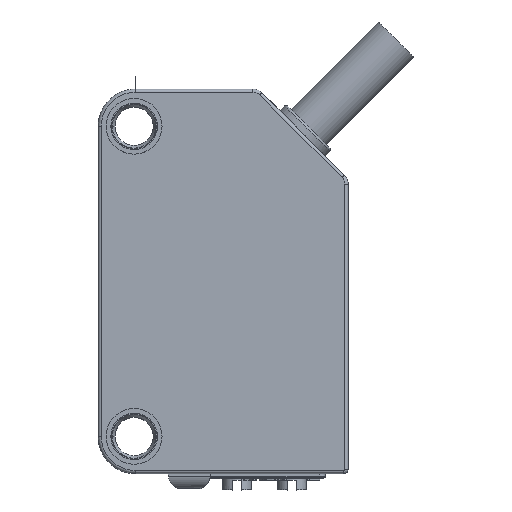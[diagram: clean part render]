
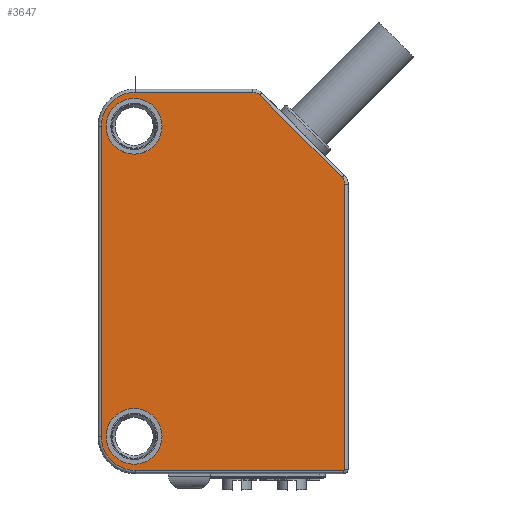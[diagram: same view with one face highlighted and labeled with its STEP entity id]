
A CAD part, top view. The second image highlights one B-rep face of the part: STEP entity #3647.
In plain terms, the highlighted planar face has unit normal (0, 0, 1).
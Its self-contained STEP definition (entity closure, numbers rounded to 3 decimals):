
#670=CARTESIAN_POINT('',(9.725,-20.125,0.25));
#671=DIRECTION('',(0.,0.,1.));
#672=DIRECTION('',(0.,-1.,0.));
#673=AXIS2_PLACEMENT_3D('',#670,#671,#672);
#675=CARTESIAN_POINT('',(-7.075,-17.475,
0.25));
#676=DIRECTION('',(0.,0.,1.));
#677=DIRECTION('',(-1.,0.,0.));
#678=AXIS2_PLACEMENT_3D('',#675,#676,#677);
#680=CARTESIAN_POINT('',(-7.075,7.525,0.25));
#681=DIRECTION('',(0.,0.,1.));
#682=DIRECTION('',(0.,1.,0.));
#683=AXIS2_PLACEMENT_3D('',#680,#681,#682);
#685=CARTESIAN_POINT('',(2.411,9.525,0.25));
#686=DIRECTION('',(0.,0.,1.));
#687=DIRECTION('',(0.707,0.707,0.));
#688=AXIS2_PLACEMENT_3D('',#685,#686,#687);
#690=DIRECTION('',(-0.707,0.707,0.));
#691=VECTOR('',#690,9.425);
#692=CARTESIAN_POINT('',(9.605,3.391,0.25));
#693=LINE('',#692,#691);
#694=CARTESIAN_POINT('',(9.075,2.861,0.25));
#695=DIRECTION('',(0.,0.,1.));
#696=DIRECTION('',(1.,0.,0.));
#697=AXIS2_PLACEMENT_3D('',#694,#695,#696);
#699=CARTESIAN_POINT('',(-7.175,-17.475,
0.25));
#700=DIRECTION('',(0.,0.,-1.));
#701=DIRECTION('',(0.,1.,0.));
#702=AXIS2_PLACEMENT_3D('',#699,#700,#701);
#704=CARTESIAN_POINT('',(-7.175,-17.475,
0.25));
#705=DIRECTION('',(0.,0.,-1.));
#706=DIRECTION('',(0.,-1.,0.));
#707=AXIS2_PLACEMENT_3D('',#704,#705,#706);
#709=CARTESIAN_POINT('',(-7.175,7.525,0.25));
#710=DIRECTION('',(0.,0.,-1.));
#711=DIRECTION('',(0.,1.,0.));
#712=AXIS2_PLACEMENT_3D('',#709,#710,#711);
#714=CARTESIAN_POINT('',(-7.175,7.525,0.25));
#715=DIRECTION('',(0.,0.,-1.));
#716=DIRECTION('',(0.,-1.,0.));
#717=AXIS2_PLACEMENT_3D('',#714,#715,#716);
#719=DIRECTION('',(0.,-1.,0.));
#720=VECTOR('',#719,22.986);
#721=CARTESIAN_POINT('',(9.825,2.861,0.25));
#722=LINE('',#721,#720);
#742=DIRECTION('',(-1.,0.,0.));
#743=VECTOR('',#742,16.8);
#744=CARTESIAN_POINT('',(9.725,-20.225,0.25));
#745=LINE('',#744,#743);
#765=DIRECTION('',(0.,1.,0.));
#766=VECTOR('',#765,25.);
#767=CARTESIAN_POINT('',(-9.825,-17.475,
0.25));
#768=LINE('',#767,#766);
#788=DIRECTION('',(1.,0.,0.));
#789=VECTOR('',#788,9.486);
#790=CARTESIAN_POINT('',(-7.075,10.275,0.25));
#791=LINE('',#790,#789);
#2739=CARTESIAN_POINT('',(-7.075,-20.225,
0.25));
#2740=VERTEX_POINT('',#2739);
#2741=CARTESIAN_POINT('',(-9.825,-17.475,
0.25));
#2742=VERTEX_POINT('',#2741);
#2743=CARTESIAN_POINT('',(9.725,-20.225,
0.25));
#2744=VERTEX_POINT('',#2743);
#2745=CARTESIAN_POINT('',(-9.825,7.525,
0.25));
#2746=VERTEX_POINT('',#2745);
#2747=CARTESIAN_POINT('',(9.825,-20.125,
0.25));
#2748=VERTEX_POINT('',#2747);
#2749=CARTESIAN_POINT('',(9.825,2.861,0.25));
#2750=VERTEX_POINT('',#2749);
#2807=CARTESIAN_POINT('',(2.941,10.055,0.25));
#2808=VERTEX_POINT('',#2807);
#2809=CARTESIAN_POINT('',(-7.075,10.275,
0.25));
#2810=VERTEX_POINT('',#2809);
#2811=CARTESIAN_POINT('',(2.411,10.275,0.25));
#2812=VERTEX_POINT('',#2811);
#2813=CARTESIAN_POINT('',(-7.175,-19.725,
0.25));
#2815=VERTEX_POINT('',#2813);
#2818=CARTESIAN_POINT('',(-7.175,-15.225,
0.25));
#2820=VERTEX_POINT('',#2818);
#2821=CARTESIAN_POINT('',(-7.175,9.775,
0.25));
#2822=VERTEX_POINT('',#2821);
#2823=CARTESIAN_POINT('',(-7.175,5.275,
0.25));
#2824=VERTEX_POINT('',#2823);
#2825=CARTESIAN_POINT('',(9.605,3.391,0.25));
#2826=VERTEX_POINT('',#2825);
#3610=CARTESIAN_POINT('',(0.975,-4.975,0.25));
#3611=DIRECTION('',(0.,0.,-1.));
#3612=DIRECTION('',(0.,1.,0.));
#3613=AXIS2_PLACEMENT_3D('',#3610,#3611,#3612);
#3614=PLANE('',#3613);
#3616=ORIENTED_EDGE('',*,*,#3615,.T.);
#3618=ORIENTED_EDGE('',*,*,#3617,.F.);
#3620=ORIENTED_EDGE('',*,*,#3619,.T.);
#3622=ORIENTED_EDGE('',*,*,#3621,.F.);
#3624=ORIENTED_EDGE('',*,*,#3623,.T.);
#3626=ORIENTED_EDGE('',*,*,#3625,.F.);
#3628=ORIENTED_EDGE('',*,*,#3627,.T.);
#3630=ORIENTED_EDGE('',*,*,#3629,.F.);
#3632=ORIENTED_EDGE('',*,*,#3631,.F.);
#3634=ORIENTED_EDGE('',*,*,#3633,.F.);
#3635=EDGE_LOOP('',(#3616,#3618,#3620,#3622,#3624,#3626,#3628,#3630,#3632,
#3634));
#3636=FACE_OUTER_BOUND('',#3635,.F.);
#3637=ORIENTED_EDGE('',*,*,#3592,.F.);
#3638=ORIENTED_EDGE('',*,*,#3605,.F.);
#3639=EDGE_LOOP('',(#3637,#3638));
#3640=FACE_BOUND('',#3639,.F.);
#3642=ORIENTED_EDGE('',*,*,#3641,.F.);
#3644=ORIENTED_EDGE('',*,*,#3643,.F.);
#3645=EDGE_LOOP('',(#3642,#3644));
#3646=FACE_BOUND('',#3645,.F.);
#3647=ADVANCED_FACE('',(#3636,#3640,#3646),#3614,.F.);
#674=CIRCLE('',#673,0.1);
#679=CIRCLE('',#678,2.75);
#684=CIRCLE('',#683,2.75);
#689=CIRCLE('',#688,0.75);
#698=CIRCLE('',#697,0.75);
#703=CIRCLE('',#702,2.25);
#708=CIRCLE('',#707,2.25);
#713=CIRCLE('',#712,2.25);
#718=CIRCLE('',#717,2.25);
#3592=EDGE_CURVE('',#2820,#2815,#703,.T.);
#3605=EDGE_CURVE('',#2815,#2820,#708,.T.);
#3615=EDGE_CURVE('',#2750,#2748,#722,.T.);
#3617=EDGE_CURVE('',#2744,#2748,#674,.T.);
#3619=EDGE_CURVE('',#2744,#2740,#745,.T.);
#3621=EDGE_CURVE('',#2742,#2740,#679,.T.);
#3623=EDGE_CURVE('',#2742,#2746,#768,.T.);
#3625=EDGE_CURVE('',#2810,#2746,#684,.T.);
#3627=EDGE_CURVE('',#2810,#2812,#791,.T.);
#3629=EDGE_CURVE('',#2808,#2812,#689,.T.);
#3631=EDGE_CURVE('',#2826,#2808,#693,.T.);
#3633=EDGE_CURVE('',#2750,#2826,#698,.T.);
#3641=EDGE_CURVE('',#2822,#2824,#713,.T.);
#3643=EDGE_CURVE('',#2824,#2822,#718,.T.);
